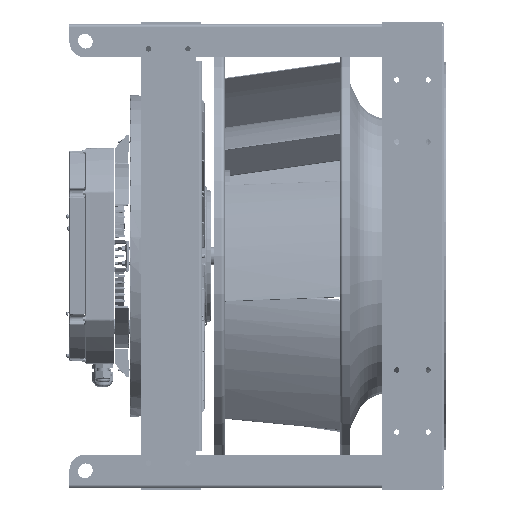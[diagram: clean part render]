
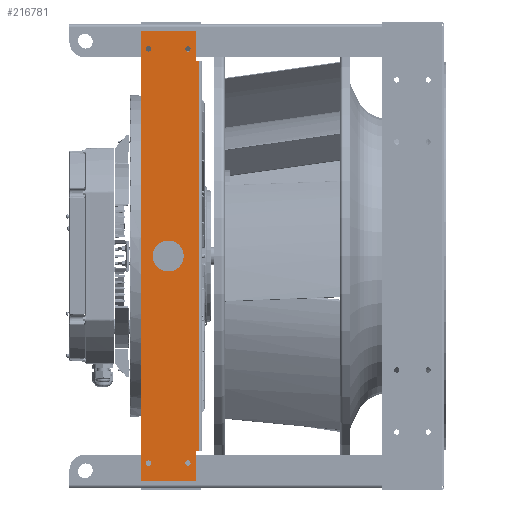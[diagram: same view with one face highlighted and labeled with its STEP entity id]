
A CAD part, left-side view. The second image highlights one B-rep face of the part: STEP entity #216781.
In plain terms, the highlighted planar face has unit normal (-1, 0, 0) as drawn and (0, 0, 1) by its records, which use the part's own axes.
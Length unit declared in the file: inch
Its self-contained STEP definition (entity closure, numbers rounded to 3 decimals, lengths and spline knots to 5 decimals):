
#386 = FACE_BOUND ( 'NONE', #116184, .T. ) ;
#731 = CIRCLE ( 'NONE', #97616, 0.172 ) ;
#2382 = ORIENTED_EDGE ( 'NONE', *, *, #19573, .T. ) ;
#3768 = DIRECTION ( 'NONE',  ( 1., 0., 0. ) ) ;
#8132 = CARTESIAN_POINT ( 'NONE',  ( -13.51786, -1.27, 0.135 ) ) ;
#8505 = VERTEX_POINT ( 'NONE', #110616 ) ;
#12508 = ORIENTED_EDGE ( 'NONE', *, *, #96427, .T. ) ;
#13569 = VECTOR ( 'NONE', #159501, 39.37008 ) ;
#19573 = EDGE_CURVE ( 'NONE', #248717, #20658, #258892, .T. ) ;
#20230 = CARTESIAN_POINT ( 'NONE',  ( -14.50586, 1.77, 0.135 ) ) ;
#20326 = CIRCLE ( 'NONE', #205314, 0.172 ) ;
#20658 = VERTEX_POINT ( 'NONE', #92938 ) ;
#23149 = CIRCLE ( 'NONE', #221303, 1. ) ;
#24415 = EDGE_CURVE ( 'NONE', #31168, #31168, #23149, .T. ) ;
#24832 = VECTOR ( 'NONE', #61512, 39.37008 ) ;
#28401 = DIRECTION ( 'NONE',  ( 0., 1., 0. ) ) ;
#29160 = DIRECTION ( 'NONE',  ( -1., 0., 0. ) ) ;
#29855 = EDGE_CURVE ( 'NONE', #55616, #88419, #252984, .T. ) ;
#31168 = VERTEX_POINT ( 'NONE', #115311 ) ;
#31811 = ORIENTED_EDGE ( 'NONE', *, *, #272621, .F. ) ;
#36094 = CARTESIAN_POINT ( 'NONE',  ( -12.59586, 1.77, 0.135 ) ) ;
#38704 = VERTEX_POINT ( 'NONE', #262747 ) ;
#42955 = AXIS2_PLACEMENT_3D ( 'NONE', #73220, #113254, #197441 ) ;
#44493 = FACE_OUTER_BOUND ( 'NONE', #257215, .T. ) ;
#52503 = LINE ( 'NONE', #133875, #109817 ) ;
#52635 = DIRECTION ( 'NONE',  ( 0., 0., -1. ) ) ;
#54181 = CARTESIAN_POINT ( 'NONE',  ( -13.34586, -1.27, 0.135 ) ) ;
#55616 = VERTEX_POINT ( 'NONE', #131425 ) ;
#58956 = EDGE_LOOP ( 'NONE', ( #220135 ) ) ;
#60736 = DIRECTION ( 'NONE',  ( 1., 0., 0. ) ) ;
#61512 = DIRECTION ( 'NONE',  ( -1., 0., 0. ) ) ;
#63793 = FACE_BOUND ( 'NONE', #103104, .T. ) ;
#64608 = VECTOR ( 'NONE', #195511, 39.37008 ) ;
#67936 = CARTESIAN_POINT ( 'NONE',  ( 12.59586, 1.9775, 0.135 ) ) ;
#73220 = CARTESIAN_POINT ( 'NONE',  ( 13.34586, 1.27, 0.135 ) ) ;
#73498 = DIRECTION ( 'NONE',  ( -1., 0., 0. ) ) ;
#74542 = DIRECTION ( 'NONE',  ( 0., -1., 0. ) ) ;
#75313 = ORIENTED_EDGE ( 'NONE', *, *, #122730, .F. ) ;
#83379 = VERTEX_POINT ( 'NONE', #192837 ) ;
#83685 = DIRECTION ( 'NONE',  ( 0., 0., 1. ) ) ;
#84356 = ORIENTED_EDGE ( 'NONE', *, *, #24415, .F. ) ;
#85529 = EDGE_CURVE ( 'NONE', #20658, #88419, #150051, .T. ) ;
#87185 = CARTESIAN_POINT ( 'NONE',  ( 0., 0., 0.135 ) ) ;
#88419 = VERTEX_POINT ( 'NONE', #145593 ) ;
#90074 = CARTESIAN_POINT ( 'NONE',  ( -14.50586, 1.77, 0.135 ) ) ;
#91927 = VECTOR ( 'NONE', #28401, 39.37008 ) ;
#92077 = ORIENTED_EDGE ( 'NONE', *, *, #29855, .F. ) ;
#92938 = CARTESIAN_POINT ( 'NONE',  ( 14.50586, 1.77, 0.135 ) ) ;
#96427 = EDGE_CURVE ( 'NONE', #55616, #38704, #123621, .T. ) ;
#96826 = CIRCLE ( 'NONE', #206997, 0.172 ) ;
#97616 = AXIS2_PLACEMENT_3D ( 'NONE', #258963, #192754, #3768 ) ;
#97739 = CARTESIAN_POINT ( 'NONE',  ( 13.17385, 1.27, 0.135 ) ) ;
#103104 = EDGE_LOOP ( 'NONE', ( #236724 ) ) ;
#105769 = DIRECTION ( 'NONE',  ( 1., 0., 0. ) ) ;
#105970 = CARTESIAN_POINT ( 'NONE',  ( 14.50586, -1.77, 0.135 ) ) ;
#109817 = VECTOR ( 'NONE', #74542, 39.37008 ) ;
#110597 = FACE_BOUND ( 'NONE', #179326, .T. ) ;
#110616 = CARTESIAN_POINT ( 'NONE',  ( 13.51786, -1.27, 0.135 ) ) ;
#113254 = DIRECTION ( 'NONE',  ( 0., 0., 1. ) ) ;
#114793 = EDGE_CURVE ( 'NONE', #83379, #248717, #140343, .T. ) ;
#115311 = CARTESIAN_POINT ( 'NONE',  ( 1., 0., 0.135 ) ) ;
#116184 = EDGE_LOOP ( 'NONE', ( #31811 ) ) ;
#118947 = VECTOR ( 'NONE', #272736, 39.37008 ) ;
#122730 = EDGE_CURVE ( 'NONE', #163206, #163206, #731, .T. ) ;
#122876 = AXIS2_PLACEMENT_3D ( 'NONE', #87185, #52635, #29160 ) ;
#123621 = LINE ( 'NONE', #250592, #24832 ) ;
#126102 = ORIENTED_EDGE ( 'NONE', *, *, #138531, .T. ) ;
#128620 = FACE_BOUND ( 'NONE', #58956, .T. ) ;
#131425 = CARTESIAN_POINT ( 'NONE',  ( 12.59586, 1.9775, 0.135 ) ) ;
#133875 = CARTESIAN_POINT ( 'NONE',  ( -12.59586, 1.9775, 0.135 ) ) ;
#138531 = EDGE_CURVE ( 'NONE', #229543, #83379, #205032, .T. ) ;
#140343 = LINE ( 'NONE', #166393, #118947 ) ;
#145593 = CARTESIAN_POINT ( 'NONE',  ( 12.59586, 1.77, 0.135 ) ) ;
#148654 = CIRCLE ( 'NONE', #42955, 0.172 ) ;
#150051 = LINE ( 'NONE', #192826, #64608 ) ;
#153559 = LINE ( 'NONE', #90074, #269146 ) ;
#155318 = EDGE_CURVE ( 'NONE', #179180, #179180, #20326, .T. ) ;
#159501 = DIRECTION ( 'NONE',  ( 0., -1., 0. ) ) ;
#163206 = VERTEX_POINT ( 'NONE', #269536 ) ;
#163352 = EDGE_CURVE ( 'NONE', #202683, #202683, #148654, .T. ) ;
#166393 = CARTESIAN_POINT ( 'NONE',  ( -14.50586, -1.77, 0.135 ) ) ;
#166494 = ORIENTED_EDGE ( 'NONE', *, *, #85529, .T. ) ;
#166535 = EDGE_CURVE ( 'NONE', #248545, #229543, #153559, .T. ) ;
#172370 = CARTESIAN_POINT ( 'NONE',  ( 0., 0., 0.135 ) ) ;
#179180 = VERTEX_POINT ( 'NONE', #8132 ) ;
#179326 = EDGE_LOOP ( 'NONE', ( #75313 ) ) ;
#185570 = ORIENTED_EDGE ( 'NONE', *, *, #114793, .T. ) ;
#185648 = VECTOR ( 'NONE', #188110, 39.37008 ) ;
#187664 = DIRECTION ( 'NONE',  ( 0., 0., 1. ) ) ;
#188110 = DIRECTION ( 'NONE',  ( 0., -1., 0. ) ) ;
#189390 = FACE_BOUND ( 'NONE', #240717, .T. ) ;
#192077 = PLANE ( 'NONE',  #122876 ) ;
#192754 = DIRECTION ( 'NONE',  ( 0., 0., 1. ) ) ;
#192826 = CARTESIAN_POINT ( 'NONE',  ( -14.50586, 1.77, 0.135 ) ) ;
#192837 = CARTESIAN_POINT ( 'NONE',  ( -14.50586, -1.77, 0.135 ) ) ;
#195511 = DIRECTION ( 'NONE',  ( -1., 0., 0. ) ) ;
#197441 = DIRECTION ( 'NONE',  ( -1., 0., 0. ) ) ;
#202683 = VERTEX_POINT ( 'NONE', #97739 ) ;
#203193 = DIRECTION ( 'NONE',  ( 0., 0., 1. ) ) ;
#204873 = ORIENTED_EDGE ( 'NONE', *, *, #166535, .T. ) ;
#205032 = LINE ( 'NONE', #268557, #13569 ) ;
#205314 = AXIS2_PLACEMENT_3D ( 'NONE', #54181, #203193, #222492 ) ;
#206997 = AXIS2_PLACEMENT_3D ( 'NONE', #213383, #83685, #105769 ) ;
#213383 = CARTESIAN_POINT ( 'NONE',  ( 13.34586, -1.27, 0.135 ) ) ;
#216781 = ADVANCED_FACE ( 'NONE', ( #189390, #44493, #128620, #110597, #386, #63793 ), #192077, .F. ) ;
#218800 = CARTESIAN_POINT ( 'NONE',  ( 14.50586, -1.77, 0.135 ) ) ;
#220135 = ORIENTED_EDGE ( 'NONE', *, *, #155318, .F. ) ;
#221303 = AXIS2_PLACEMENT_3D ( 'NONE', #172370, #187664, #60736 ) ;
#222492 = DIRECTION ( 'NONE',  ( -1., 0., 0. ) ) ;
#229543 = VERTEX_POINT ( 'NONE', #20230 ) ;
#234704 = ORIENTED_EDGE ( 'NONE', *, *, #271798, .T. ) ;
#236724 = ORIENTED_EDGE ( 'NONE', *, *, #163352, .F. ) ;
#240717 = EDGE_LOOP ( 'NONE', ( #84356 ) ) ;
#248545 = VERTEX_POINT ( 'NONE', #36094 ) ;
#248717 = VERTEX_POINT ( 'NONE', #105970 ) ;
#250592 = CARTESIAN_POINT ( 'NONE',  ( 12.59586, 1.9775, 0.135 ) ) ;
#252984 = LINE ( 'NONE', #67936, #185648 ) ;
#257215 = EDGE_LOOP ( 'NONE', ( #126102, #185570, #2382, #166494, #92077, #12508, #234704, #204873 ) ) ;
#258892 = LINE ( 'NONE', #218800, #91927 ) ;
#258963 = CARTESIAN_POINT ( 'NONE',  ( -13.34586, 1.27, 0.135 ) ) ;
#262747 = CARTESIAN_POINT ( 'NONE',  ( -12.59586, 1.9775, 0.135 ) ) ;
#268557 = CARTESIAN_POINT ( 'NONE',  ( -14.50586, -1.77, 0.135 ) ) ;
#269146 = VECTOR ( 'NONE', #73498, 39.37008 ) ;
#269536 = CARTESIAN_POINT ( 'NONE',  ( -13.17385, 1.27, 0.135 ) ) ;
#271798 = EDGE_CURVE ( 'NONE', #38704, #248545, #52503, .T. ) ;
#272621 = EDGE_CURVE ( 'NONE', #8505, #8505, #96826, .T. ) ;
#272736 = DIRECTION ( 'NONE',  ( 1., 0., 0. ) ) ;
